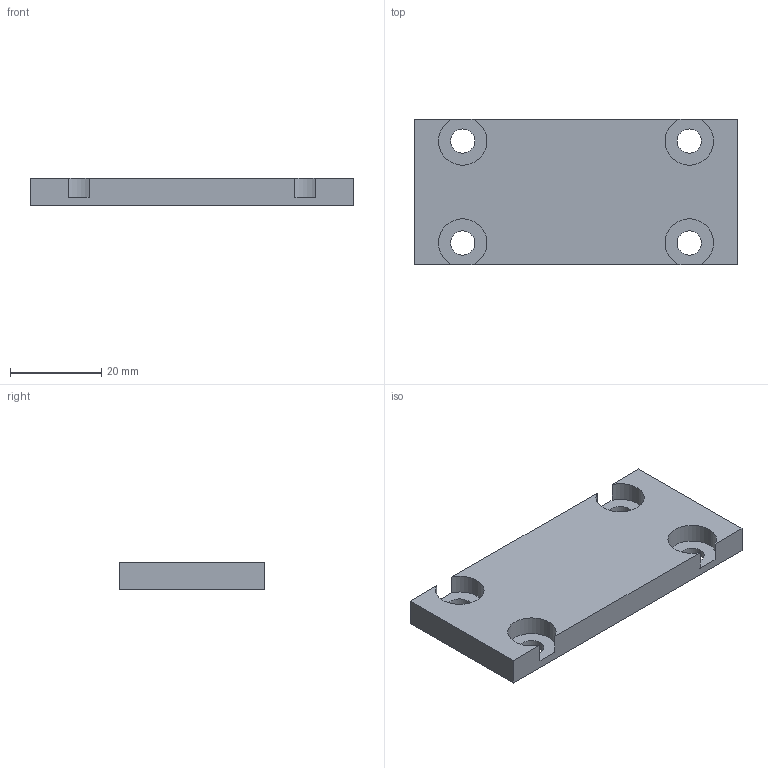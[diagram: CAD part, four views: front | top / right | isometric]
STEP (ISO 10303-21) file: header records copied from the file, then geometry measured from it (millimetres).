
FILE_DESCRIPTION(('Mechanical CAD reference from nasji.com'),'2;1');
FILE_NAME('NASJI.step','',(''),(''),'','NASJI distribution','');
FILE_SCHEMA(('AUTOMOTIVE_DESIGN { 1 0 10303 214 1 1 1 1 }'));
Length unit declared in the file: millimetre
Products named in the file (1): Open CASCADE STEP translator 7.8 86
Bounding box: 70.92 x 31.9 x 6 mm (x, y, z)
Volume: 11959.2 mm3; surface area: 6105.7 mm2
Topology: 1 solids, 1 shells, 18 faces, 48 edges, 32 vertices
Faces by surface type: plane 10, cylinder 8
Full cylindrical faces by diameter (mm): 5.3 x4
Entity records: 1218 total; most frequent: CARTESIAN_POINT 267, DIRECTION 166, ORIENTED_EDGE 96, PCURVE 96, DEFINITIONAL_REPRESENTATION 96, LINE 88, VECTOR 88, EDGE_CURVE 48
